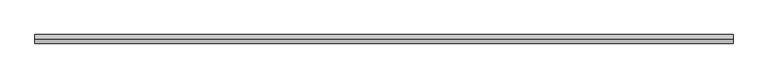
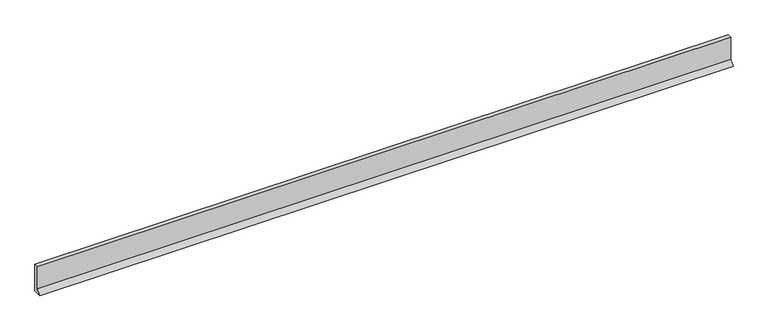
"""IFC4 building model written with IfcOpenShell, lengths in millimetres: plate geometry, ATELIERS 3S_EPURE CDB 200_HORIZONTAL : AZURO."""

from ifc_helpers import new_model, si_unit, frame, origin, place, context, project, spatial, polyline, outline, extrude, source, transform, mapped, element, save


def plate_d045a554(model_context):
    return source(origin(), model_context, "Body", "SweptSolid", [
        extrude(outline(polyline([(-30.0201339, 31.7071152), (-30.0201339, 200.0), (0.0, 200.0), (0.0, 0.0), (-61.727249, 0.0), (-30.0201339, 31.7071152)])), frame((-2500.0, 0.0, 0.0), z_axis=(1.0, 0.0, 0.0), x_axis=(0.0, 1.0, 0.0)), (0.0, 0.0, 1.0), 5000.0),
    ])


if __name__ == "__main__":
    model = new_model("IFC4")
    model_context = context("Model", 3, world=origin())
    ifc_project = project(units=[si_unit("LENGTHUNIT", "METRE", prefix="MILLI")], contexts=[model_context])
    site = spatial("IfcSite", under=ifc_project)
    building = spatial("IfcBuilding", under=site)
    placement = place(None, origin())
    plate_shape = plate_d045a554(model_context)
    element("IfcPlate", 1, ObjectType="ATELIERS 3S_EPURE CDB 200_HORIZONTAL : AZURO", at=placement, inside=building, context=model_context, shape_type="MappedRepresentation", body=[
        mapped(plate_shape, transform((0.0, 0.0, 0.0), x_axis=(1.0, 0.0, 0.0), y_axis=(0.0, 1.0, 0.0), z_axis=(0.0, 0.0, 1.0))),
    ])
    save(model, "model.ifc")
